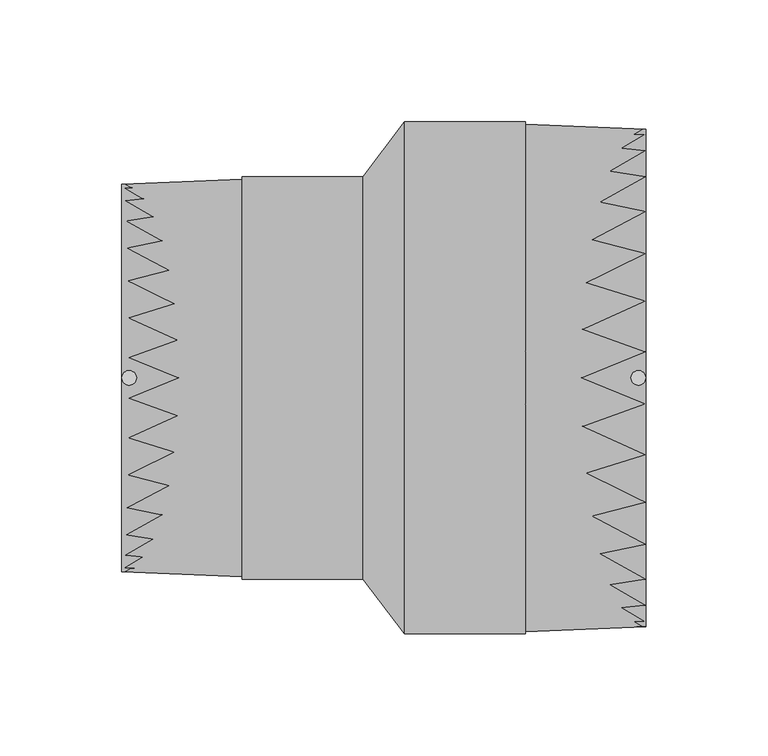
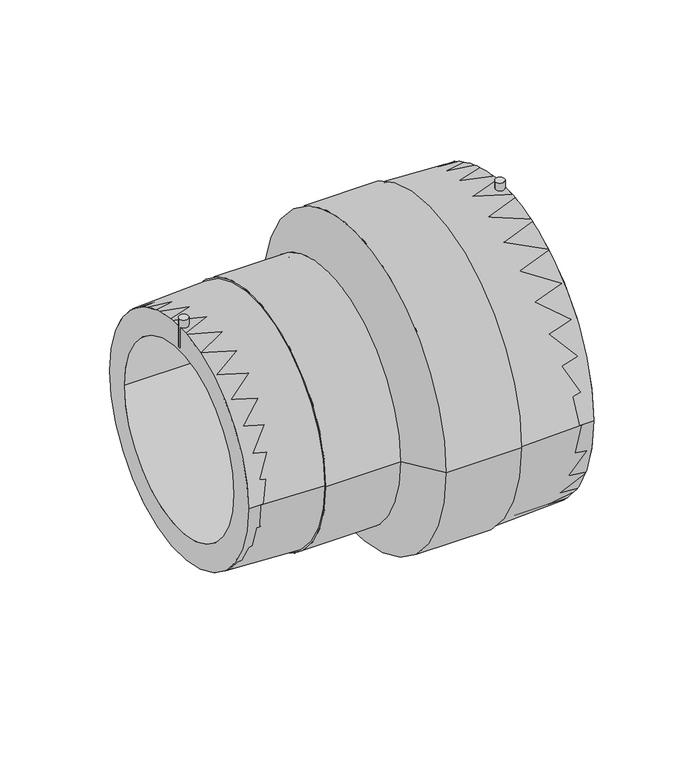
"""IFC4 building model written with IfcOpenShell, lengths in millimetres: pipe fitting geometry, EGB_VASEN_ PPR_Manguito reductor electrosoldable WXRD110 : Manguito reductor electrosoldable WXRD110."""

import ifcopenshell
import ifcopenshell.guid

model = None  # the IFC model being written
_history = None  # IfcOwnerHistory: only IFC2X3 demands one
_inside = {}  # id of a spatial element -> (the spatial element, [elements in it])
_under = {}  # id of a project, library or spatial element -> (it, [spatial elements below it])
_declared = {}  # id of a project -> (the project, [libraries it declares])
_typed = {}  # id of a type object -> (the type object, [elements of that type])
_made_of = {}  # id of a material, layer set ... -> (it, [elements and type objects made of it])


def new_model(schema):
    """Start an empty IFC model of exactly this schema.

    Asked for "IFC4X3", IfcOpenShell would pick the latest addendum, in which some entities
    have other attributes; the version numbers below select the first issue.
    IFC2X3 requires an IfcOwnerHistory on every rooted entity: one is made here for all.
    """
    global model, _history
    if schema == "IFC4X3":
        model = ifcopenshell.file(schema_version=(4, 3, 0, 0))
    else:
        model = ifcopenshell.file(schema=schema)
    _inside.clear()
    _under.clear()
    _declared.clear()
    _typed.clear()
    _made_of.clear()
    _history = None
    if model.schema == "IFC2X3":
        org = make("IfcOrganization", Name="unknown")
        user = make(
            "IfcPersonAndOrganization",
            ThePerson=make("IfcPerson", FamilyName="unknown"),
            TheOrganization=org,
        )
        app = make(
            "IfcApplication",
            ApplicationDeveloper=org,
            Version="unknown",
            ApplicationFullName="unknown",
            ApplicationIdentifier="unknown",
        )
        _history = make(
            "IfcOwnerHistory",
            OwningUser=user,
            OwningApplication=app,
            ChangeAction="ADDED",
            CreationDate=0,
        )
    return model


def make(cls, **values):
    """One entity of the class cls with the attributes given. An attribute that is None is left unset."""
    return model.create_entity(
        cls, **{name: value for name, value in values.items() if value is not None}
    )


def rooted(cls, **values):
    """An entity with a GlobalId (a new one), such as an element, a storey or a relation."""
    return make(cls, GlobalId=ifcopenshell.guid.new(), OwnerHistory=_history, **values)


def si_unit(unit_type, name, prefix=None):
    """IfcSIUnit, for example si_unit("LENGTHUNIT", "METRE", prefix="MILLI")."""
    return make("IfcSIUnit", UnitType=unit_type, Prefix=prefix, Name=name)


def assignment(units):
    """IfcUnitAssignment: the units of a project."""
    return None if units is None else make("IfcUnitAssignment", Units=units)


def point(xyz):
    """IfcCartesianPoint."""
    return None if xyz is None else make("IfcCartesianPoint", Coordinates=xyz)


def direction(xyz):
    """IfcDirection."""
    return None if xyz is None else make("IfcDirection", DirectionRatios=xyz)


def frame(location, z_axis=None, x_axis=None):
    """IfcAxis2Placement3D, a coordinate frame: its origin and axes. An axis left out is left unset."""
    return make(
        "IfcAxis2Placement3D",
        Location=point(location),
        Axis=direction(z_axis),
        RefDirection=direction(x_axis),
    )


def frame_2d(location, x_axis=None):
    """IfcAxis2Placement2D, a coordinate frame in the plane: its origin and x axis."""
    return make(
        "IfcAxis2Placement2D", Location=point(location), RefDirection=direction(x_axis)
    )


def origin():
    """The frame at (0, 0, 0) with its axes left unset."""
    return frame((0.0, 0.0, 0.0))


def origin_2d():
    """The frame at (0, 0) in the plane with its x axis left unset."""
    return frame_2d((0.0, 0.0))


def place(relative_to, where):
    """IfcLocalPlacement: puts the frame where relative to a parent placement (None: the world)."""
    return make(
        "IfcLocalPlacement", PlacementRelTo=relative_to, RelativePlacement=where
    )


def context(
    kind, dimensions, precision=None, world=None, true_north=None, identifier=None
):
    """IfcGeometricRepresentationContext, for example the 3D "Model" context."""
    return make(
        "IfcGeometricRepresentationContext",
        ContextIdentifier=identifier,
        ContextType=kind,
        CoordinateSpaceDimension=dimensions,
        Precision=precision,
        WorldCoordinateSystem=world,
        TrueNorth=true_north,
    )


def project(units=None, contexts=None):
    """IfcProject with its units and contexts."""
    return rooted(
        "IfcProject",
        Name="project",
        RepresentationContexts=contexts,
        UnitsInContext=assignment(units),
    )


def spatial(cls, under=None, at=None, **own):
    """A site, building, storey or space (cls), placed at a placement, below another one or the project."""
    s = rooted(cls, ObjectPlacement=at, **own)
    if under is not None:
        _under.setdefault(under.id(), (under, []))[1].append(s)
    return s


def polyline(points):
    """IfcPolyline through the points."""
    return make("IfcPolyline", Points=[point(p) for p in points])


def circle_curve(where, radius):
    """IfcCircle in the frame where."""
    return make("IfcCircle", Position=where, Radius=radius)


def trimmed(basis, trim1, trim2, sense, master):
    """IfcTrimmedCurve: the piece of a basis curve between two trims."""
    return make(
        "IfcTrimmedCurve",
        BasisCurve=basis,
        Trim1=trim1,
        Trim2=trim2,
        SenseAgreement=sense,
        MasterRepresentation=master,
    )


def segment(curve, same_sense, transition):
    """IfcCompositeCurveSegment."""
    return make(
        "IfcCompositeCurveSegment",
        Transition=transition,
        SameSense=same_sense,
        ParentCurve=curve,
    )


def composite_curve(segments, self_intersect=None):
    """IfcCompositeCurve: segments joined end to end."""
    return make("IfcCompositeCurve", Segments=segments, SelfIntersect=self_intersect)


def outline(outer, holes=None, kind="AREA"):
    """IfcArbitraryClosedProfileDef: a profile drawn as a closed curve; with holes, ...WithVoids."""
    if holes is None:
        return make("IfcArbitraryClosedProfileDef", ProfileType=kind, OuterCurve=outer)
    return make(
        "IfcArbitraryProfileDefWithVoids",
        ProfileType=kind,
        OuterCurve=outer,
        InnerCurves=holes,
    )


def extrude(swept, where, along, depth):
    """IfcExtrudedAreaSolid: the profile swept, set in the frame where, extruded along a direction by depth."""
    return make(
        "IfcExtrudedAreaSolid",
        SweptArea=swept,
        Position=where,
        ExtrudedDirection=direction(along),
        Depth=depth,
    )


def shape(context_of_items, identifier, shape_type, items):
    """IfcShapeRepresentation: the items that make up one representation, for example the "Body"."""
    return make(
        "IfcShapeRepresentation",
        ContextOfItems=context_of_items,
        RepresentationIdentifier=identifier,
        RepresentationType=shape_type,
        Items=items,
    )


def source(mapping_origin, context_of_items, identifier, shape_type, items):
    """IfcRepresentationMap: a shape defined once, which mapped items show again and again."""
    return make(
        "IfcRepresentationMap",
        MappingOrigin=mapping_origin,
        MappedRepresentation=shape(context_of_items, identifier, shape_type, items),
    )


def transform(
    local_origin,
    x_axis=None,
    y_axis=None,
    z_axis=None,
    scale=None,
    scale2=None,
    scale3=None,
    uniform=True,
):
    """IfcCartesianTransformationOperator3D, or its non-uniform kind. x_axis, y_axis, z_axis: its Axis1, 2, 3."""
    if uniform:
        return make(
            "IfcCartesianTransformationOperator3D",
            Axis1=direction(x_axis),
            Axis2=direction(y_axis),
            LocalOrigin=point(local_origin),
            Scale=scale,
            Axis3=direction(z_axis),
        )
    return make(
        "IfcCartesianTransformationOperator3DnonUniform",
        Axis1=direction(x_axis),
        Axis2=direction(y_axis),
        LocalOrigin=point(local_origin),
        Scale=scale,
        Axis3=direction(z_axis),
        Scale2=scale2,
        Scale3=scale3,
    )


def mapped(mapping_source, mapping_target):
    """IfcMappedItem: shows the shape of a source again, moved by a transform."""
    return make(
        "IfcMappedItem", MappingSource=mapping_source, MappingTarget=mapping_target
    )


def made_of(thing, what):
    """Note that an element or type object is made of a material, layer set ...; save() writes the relation."""
    if what is not None:
        _made_of.setdefault(what.id(), (what, []))[1].append(thing)
    return thing


def element(
    cls,
    number,
    at=None,
    inside=None,
    cuts=None,
    type_object=None,
    material=None,
    context=None,
    identifier="Body",
    shape_type=None,
    held_by="IfcProductDefinitionShape",
    body=None,
    shapes=None,
    **own,
):
    """One element of the class cls, such as IfcWall. Its Tag is "e" and its number.

    at: its placement. inside: the storey or other place that contains it. cuts: it is an
    opening in that element (IfcRelVoidsElement). A single representation is given by context,
    identifier, shape_type and body (its items); several are given by shapes. held_by: the class
    of the entity that holds the representations. save() writes the other relations.
    """
    e = rooted(cls, Tag="e%d" % number, ObjectPlacement=at, **own)
    if body is not None:
        shapes = [shape(context, identifier, shape_type, body)]
    if shapes is not None:
        e.Representation = make(held_by, Representations=shapes)
    if inside is not None:
        _inside.setdefault(inside.id(), (inside, []))[1].append(e)
    if cuts is not None:
        rooted(
            "IfcRelVoidsElement", RelatingBuildingElement=cuts, RelatedOpeningElement=e
        )
    if type_object is not None:
        _typed.setdefault(type_object.id(), (type_object, []))[1].append(e)
    return made_of(e, material)


def aggregate(whole, parts):
    """IfcRelAggregates: a whole, such as a stair, and the parts it consists of."""
    return rooted("IfcRelAggregates", RelatingObject=whole, RelatedObjects=parts)


def save(model, path):
    """Write the relations noted so far, then the file.

    IfcRelAggregates (storeys below a building ...), IfcRelContainedInSpatialStructure (elements
    in a storey), IfcRelDefinesByType, IfcRelAssociatesMaterial and IfcRelDeclares: one each for
    every whole, place, type object, material and project.
    """
    for whole, parts in _under.values():
        aggregate(whole, parts)
    for where, things in _inside.values():
        rooted(
            "IfcRelContainedInSpatialStructure",
            RelatedElements=things,
            RelatingStructure=where,
        )
    for kind, things in _typed.values():
        rooted("IfcRelDefinesByType", RelatedObjects=things, RelatingType=kind)
    for what, things in _made_of.values():
        rooted("IfcRelAssociatesMaterial", RelatedObjects=things, RelatingMaterial=what)
    for by, libraries in _declared.values():
        rooted("IfcRelDeclares", RelatingContext=by, RelatedDefinitions=libraries)
    model.write(path)


def plane_surface(at):
    """IfcPlane: the flat surface through the origin of the frame at, square to its z axis."""
    return make("IfcPlane", Position=at)


def cylinder_surface(at, radius):
    """IfcCylindricalSurface: all points at the distance radius from the z axis of the frame at."""
    return make("IfcCylindricalSurface", Position=at, Radius=radius)


def revolved_surface(curve, axis_point, axis_direction):
    """IfcSurfaceOfRevolution: the curve turned about the line through axis_point along axis_direction."""
    return make(
        "IfcSurfaceOfRevolution",
        SweptCurve=make("IfcArbitraryOpenProfileDef", ProfileType="CURVE", Curve=curve),
        AxisPosition=make("IfcAxis1Placement", Location=point(axis_point), Axis=direction(axis_direction)),
    )


def advanced_brep(points, edges, surfaces, faces):
    """IfcAdvancedBrep: a solid bounded by faces that lie on surfaces and meet in shared edges.

    An edge is (start, end): straight between two places in points (the first is 0);
    or (start, end, curve); or (start, end, curve, False) where it runs against its curve.
    A face is (place in surfaces, loops), or (place, loops, False) where it looks against
    its surface's normal. A loop lists edges by number (the first is 1), with a minus sign
    where the edge is run from its end to its start. The first loop is the outer one.
    """
    corners = [point(p) for p in points]
    vertices = [make("IfcVertexPoint", VertexGeometry=c) for c in corners]
    made = []
    for start, end, *more in edges:
        made.append(
            make(
                "IfcEdgeCurve",
                EdgeStart=vertices[start],
                EdgeEnd=vertices[end],
                EdgeGeometry=more[0] if more else make("IfcPolyline", Points=[corners[start], corners[end]]),
                SameSense=more[1] if len(more) > 1 else True,
            )
        )
    hull = []
    for where, loops, *sense in faces:
        bounds = []
        for j, loop in enumerate(loops):
            ring = [make("IfcOrientedEdge", EdgeElement=made[abs(k) - 1], Orientation=k > 0) for k in loop]
            bounds.append(
                make(
                    "IfcFaceOuterBound" if j == 0 else "IfcFaceBound",
                    Bound=make("IfcEdgeLoop", EdgeList=ring),
                    Orientation=True,
                )
            )
        hull.append(make("IfcAdvancedFace", Bounds=bounds, FaceSurface=surfaces[where], SameSense=sense[0] if sense else True))
    return make("IfcAdvancedBrep", Outer=make("IfcClosedShell", CfsFaces=hull))


def pipe_fitting_d1c5bc89(model_context):
    return source(origin(), model_context, "Body", "SolidModel", [
        extrude(outline(composite_curve([segment(trimmed(circle_curve(frame_2d((104.5, 0.0)), 3.0), [point((101.5, 0.0))], [point((107.5, 0.0))], False, "CARTESIAN"), True, "CONTINUOUS"), segment(trimmed(circle_curve(frame_2d((104.5, 0.0)), 3.0), [point((107.5, 0.0))], [point((101.5, 0.0))], False, "CARTESIAN"), True, "CONTINUOUS")], self_intersect=False)), frame((0.0, 0.0, 82.0), z_axis=(0.0, 0.0, 1.0), x_axis=(1.0, 0.0, 0.0)), (0.0, 0.0, 1.0), 25.0),
        extrude(outline(composite_curve([segment(trimmed(circle_curve(frame_2d((-104.5, 0.0)), 3.0), [point((-107.5, 0.0))], [point((-101.5, 0.0))], False, "CARTESIAN"), True, "CONTINUOUS"), segment(trimmed(circle_curve(frame_2d((-104.5, 0.0)), 3.0), [point((-101.5, 0.0))], [point((-107.5, 0.0))], False, "CARTESIAN"), True, "CONTINUOUS")], self_intersect=False)), frame((0.0, 0.0, 64.5), z_axis=(0.0, 0.0, 1.0), x_axis=(1.0, 0.0, 0.0)), (0.0, 0.0, 1.0), 20.0),
        extrude(outline(composite_curve([segment(trimmed(circle_curve(origin_2d(), 102.0), [point((-102.0, 0.0))], [point((102.0, 0.0))], False, "CARTESIAN"), True, "CONTINUOUS"), segment(trimmed(circle_curve(origin_2d(), 102.0), [point((102.0, 0.0))], [point((-102.0, 0.0))], False, "CARTESIAN"), True, "CONTINUOUS")], self_intersect=False), holes=[composite_curve([segment(trimmed(circle_curve(origin_2d(), 80.0), [point((-80.0, 0.0))], [point((80.0, 0.0))], True, "CARTESIAN"), True, "CONTINUOUS"), segment(trimmed(circle_curve(origin_2d(), 80.0), [point((80.0, 0.0))], [point((-80.0, 0.0))], True, "CARTESIAN"), True, "CONTINUOUS")], self_intersect=False)]), frame((8.6, 0.0, 0.0), z_axis=(1.0, 0.0, 0.0), x_axis=(0.0, 1.0, 0.0)), (0.0, 0.0, 1.0), 98.9),
        extrude(outline(composite_curve([segment(trimmed(circle_curve(origin_2d(), 79.5), [point((-79.5, 0.0))], [point((79.5, 0.0))], False, "CARTESIAN"), True, "CONTINUOUS"), segment(trimmed(circle_curve(origin_2d(), 79.5), [point((79.5, 0.0))], [point((-79.5, 0.0))], False, "CARTESIAN"), True, "CONTINUOUS")], self_intersect=False), holes=[composite_curve([segment(trimmed(circle_curve(origin_2d(), 62.5), [point((-62.5, 0.0))], [point((62.5, 0.0))], True, "CARTESIAN"), True, "CONTINUOUS"), segment(trimmed(circle_curve(origin_2d(), 62.5), [point((62.5, 0.0))], [point((-62.5, 0.0))], True, "CARTESIAN"), True, "CONTINUOUS")], self_intersect=False)]), frame((-107.5, 0.0, 0.0), z_axis=(1.0, 0.0, 0.0), x_axis=(0.0, 1.0, 0.0)), (0.0, 0.0, 1.0), 98.9),
        advanced_brep(
        [(8.6, -102.0, 0.0), (8.6, 102.0, 0.0), (-8.6, -79.5, 0.0), (-8.6, 79.5, 0.0)],
        [
            (0, 1, circle_curve(frame((8.6, 0.0, 0.0), z_axis=(1.0, 0.0, 0.0), x_axis=(0.0, -1.0, 0.0)), 102.0)),
            (1, 0, circle_curve(frame((8.6, 0.0, 0.0), z_axis=(1.0, 0.0, 0.0), x_axis=(0.0, 1.0, 0.0)), 102.0)),
            (2, 3, circle_curve(frame((-8.6, 0.0, 0.0), z_axis=(-1.0, 0.0, 0.0), x_axis=(0.0, 1.0, 0.0)), 79.5)),
            (3, 2, circle_curve(frame((-8.6, 0.0, 0.0), z_axis=(-1.0, 0.0, 0.0), x_axis=(0.0, -1.0, 0.0)), 79.5)),
            (3, 1),
            (0, 2),
        ],
        [
            plane_surface(frame((8.6, 0.0, 0.0), z_axis=(1.0, 0.0, 0.0), x_axis=(0.0, 0.0, -1.0))),
            plane_surface(frame((-8.6, 0.0, 0.0), z_axis=(-1.0, 0.0, 0.0), x_axis=(0.0, 0.0, -1.0))),
            revolved_surface(polyline([(-8.600000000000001, 79.49999999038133, 0.0), (8.599999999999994, 102.0, 0.0)]), (-69.3733333, 0.0, 0.0), (1.0, 0.0, 0.0)),
            revolved_surface(polyline([(-8.600000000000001, -79.49999999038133, 0.0), (8.599999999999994, -102.0, 0.0)]), (-69.3733333, 0.0, 0.0), (1.0, 0.0, 0.0)),
        ],
        [
            (0, [[1, 2]]),
            (1, [[3, 4]]),
            (2, [[-4, 5, -1, 6]]),
            (3, [[-3, -6, -2, -5]]),
        ],
    ),
        advanced_brep(
        [(8.6, -102.0, 0.0), (8.6, 102.0, 0.0), (-8.6, 79.5, 0.0), (-8.6, -79.5, 0.0), (107.5, -102.0, 0.0), (107.5, 102.0, 0.0), (58.05, -104.0, 0.0), (58.05, 104.0, 0.0), (58.05, -105.0, 0.0), (58.05, 105.0, 0.0), (8.6, -105.0, 0.0), (8.6, 105.0, 0.0), (-8.6, -82.5, 0.0), (-8.6, 82.5, 0.0), (-58.05, -82.5, 0.0), (-58.05, 82.5, 0.0), (-58.05, -81.5, 0.0), (-58.05, 81.5, 0.0), (-107.5, -79.5, 0.0), (-107.5, 79.5, 0.0)],
        [
            (0, 1, circle_curve(frame((8.6, 0.0, 0.0), z_axis=(1.0, 0.0, 0.0), x_axis=(0.0, 1.0, 0.0)), 102.0)),
            (1, 2),
            (2, 3, circle_curve(frame((-8.6, 0.0, 0.0), z_axis=(-1.0, 0.0, 0.0), x_axis=(0.0, 1.0, 0.0)), 79.5)),
            (3, 0),
            (1, 0, circle_curve(frame((8.6, 0.0, 0.0), z_axis=(1.0, 0.0, 0.0), x_axis=(0.0, 1.0, 0.0)), 102.0)),
            (3, 2, circle_curve(frame((-8.6, 0.0, 0.0), z_axis=(-1.0, 0.0, 0.0), x_axis=(0.0, 1.0, 0.0)), 79.5)),
            (4, 5, circle_curve(frame((107.5, 0.0, 0.0), z_axis=(1.0, 0.0, 0.0), x_axis=(0.0, 1.0, 0.0)), 102.0)),
            (5, 1),
            (0, 4),
            (5, 4, circle_curve(frame((107.5, 0.0, 0.0), z_axis=(1.0, 0.0, 0.0), x_axis=(0.0, 1.0, 0.0)), 102.0)),
            (6, 7, circle_curve(frame((58.05, 0.0, 0.0), z_axis=(1.0, 0.0, 0.0), x_axis=(0.0, 1.0, 0.0)), 104.0)),
            (7, 5),
            (4, 6),
            (7, 6, circle_curve(frame((58.05, 0.0, 0.0), z_axis=(1.0, 0.0, 0.0), x_axis=(0.0, 1.0, 0.0)), 104.0)),
            (8, 9, circle_curve(frame((58.05, 0.0, 0.0), z_axis=(1.0, 0.0, 0.0), x_axis=(0.0, 1.0, 0.0)), 105.0)),
            (9, 7),
            (6, 8),
            (9, 8, circle_curve(frame((58.05, 0.0, 0.0), z_axis=(1.0, 0.0, 0.0), x_axis=(0.0, 1.0, 0.0)), 105.0)),
            (10, 11, circle_curve(frame((8.6, 0.0, 0.0), z_axis=(1.0, 0.0, 0.0), x_axis=(0.0, 1.0, 0.0)), 105.0)),
            (11, 9),
            (8, 10),
            (11, 10, circle_curve(frame((8.6, 0.0, 0.0), z_axis=(1.0, 0.0, 0.0), x_axis=(0.0, 1.0, 0.0)), 105.0)),
            (12, 13, circle_curve(frame((-8.6, 0.0, 0.0), z_axis=(1.0, 0.0, 0.0), x_axis=(0.0, 1.0, 0.0)), 82.5)),
            (13, 11),
            (10, 12),
            (13, 12, circle_curve(frame((-8.6, 0.0, 0.0), z_axis=(1.0, 0.0, 0.0), x_axis=(0.0, 1.0, 0.0)), 82.5)),
            (14, 15, circle_curve(frame((-58.05, 0.0, 0.0), z_axis=(1.0, 0.0, 0.0), x_axis=(0.0, 1.0, 0.0)), 82.5)),
            (15, 13),
            (12, 14),
            (15, 14, circle_curve(frame((-58.05, 0.0, 0.0), z_axis=(1.0, 0.0, 0.0), x_axis=(0.0, 1.0, 0.0)), 82.5)),
            (16, 17, circle_curve(frame((-58.05, 0.0, 0.0), z_axis=(1.0, 0.0, 0.0), x_axis=(0.0, 1.0, 0.0)), 81.5)),
            (17, 15),
            (14, 16),
            (17, 16, circle_curve(frame((-58.05, 0.0, 0.0), z_axis=(1.0, 0.0, 0.0), x_axis=(0.0, 1.0, 0.0)), 81.5)),
            (18, 19, circle_curve(frame((-107.5, 0.0, 0.0), z_axis=(1.0, 0.0, 0.0), x_axis=(0.0, 1.0, 0.0)), 79.5)),
            (19, 17),
            (16, 18),
            (19, 18, circle_curve(frame((-107.5, 0.0, 0.0), z_axis=(1.0, 0.0, 0.0), x_axis=(0.0, 1.0, 0.0)), 79.5)),
            (2, 19),
            (18, 3),
        ],
        [
            revolved_surface(polyline([(-8.6, 79.5, 0.0), (8.6, 102.0, 0.0)]), (-142.5, 0.0, 0.0), (-1.0, 0.0, 0.0)),
            revolved_surface(polyline([(8.599999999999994, 102.0, 0.0), (107.5, 102.0, 0.0)]), (-142.5, 0.0, 0.0), (-1.0, 0.0, 0.0)),
            revolved_surface(polyline([(107.5, 102.0, 0.0), (58.05, 104.0, 0.0)]), (-142.5, 0.0, 0.0), (-1.0, 0.0, 0.0)),
            plane_surface(frame((58.05, 0.0, 0.0), z_axis=(1.0, 0.0, 0.0), x_axis=(0.0, 1.0, 0.0))),
            cylinder_surface(frame((-142.5, 0.0, 0.0), z_axis=(-1.0, 0.0, 0.0), x_axis=(0.0, 1.0, 0.0)), 105.0),
            revolved_surface(polyline([(8.6, 105.0, 0.0), (-8.6, 82.5, 0.0)]), (-142.5, 0.0, 0.0), (-1.0, 0.0, 0.0)),
            cylinder_surface(frame((-142.5, 0.0, 0.0), z_axis=(-1.0, 0.0, 0.0), x_axis=(0.0, 1.0, 0.0)), 82.5),
            plane_surface(frame((-58.05, 0.0, 0.0), z_axis=(-1.0, 0.0, 0.0), x_axis=(0.0, 1.0, 0.0))),
            revolved_surface(polyline([(-58.05, 81.5, 0.0), (-107.5, 79.5, 0.0)]), (-142.5, 0.0, 0.0), (-1.0, 0.0, 0.0)),
            revolved_surface(polyline([(-107.5, 79.5, 0.0), (-8.599999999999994, 79.5, 0.0)]), (-142.5, 0.0, 0.0), (-1.0, 0.0, 0.0)),
        ],
        [
            (0, [[1, 2, 3, 4]]),
            (0, [[5, -4, 6, -2]]),
            (1, [[7, 8, -1, 9]]),
            (1, [[10, -9, -5, -8]]),
            (2, [[11, 12, -7, 13]]),
            (2, [[14, -13, -10, -12]]),
            (3, [[15, 16, -11, 17]]),
            (3, [[18, -17, -14, -16]]),
            (4, [[19, 20, -15, 21]]),
            (4, [[22, -21, -18, -20]]),
            (5, [[23, 24, -19, 25]]),
            (5, [[26, -25, -22, -24]]),
            (6, [[27, 28, -23, 29]]),
            (6, [[30, -29, -26, -28]]),
            (7, [[31, 32, -27, 33]]),
            (7, [[34, -33, -30, -32]]),
            (8, [[35, 36, -31, 37]]),
            (8, [[38, -37, -34, -36]]),
            (9, [[-3, 39, -35, 40]]),
            (9, [[-6, -40, -38, -39]]),
        ],
    ),
    ])


if __name__ == "__main__":
    model = new_model("IFC4")
    model_context = context("Model", 3, world=origin())
    ifc_project = project(units=[si_unit("LENGTHUNIT", "METRE", prefix="MILLI")], contexts=[model_context])
    site = spatial("IfcSite", under=ifc_project)
    building = spatial("IfcBuilding", under=site)
    placement = place(None, origin())
    pipe_fitting_shape = pipe_fitting_d1c5bc89(model_context)
    element("IfcPipeFitting", 1, ObjectType="EGB_VASEN_ PPR_Manguito reductor electrosoldable WXRD110 : Manguito reductor electrosoldable WXRD110", at=placement, inside=building, context=model_context, shape_type="MappedRepresentation", body=[
        mapped(pipe_fitting_shape, transform((0.0, 0.0, 0.0), x_axis=(1.0, 0.0, 0.0), y_axis=(0.0, 1.0, 0.0), z_axis=(0.0, 0.0, 1.0))),
    ])
    save(model, "model.ifc")
